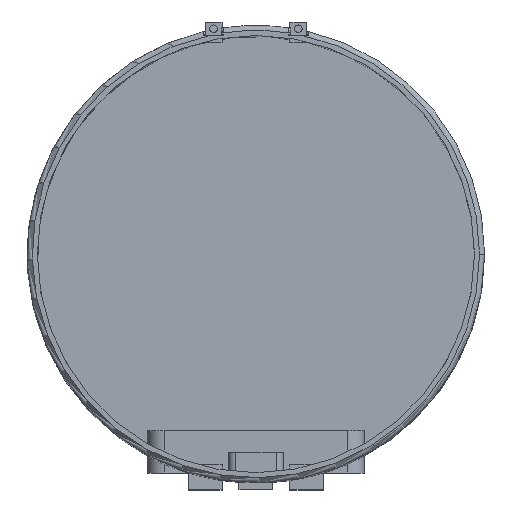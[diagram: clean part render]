
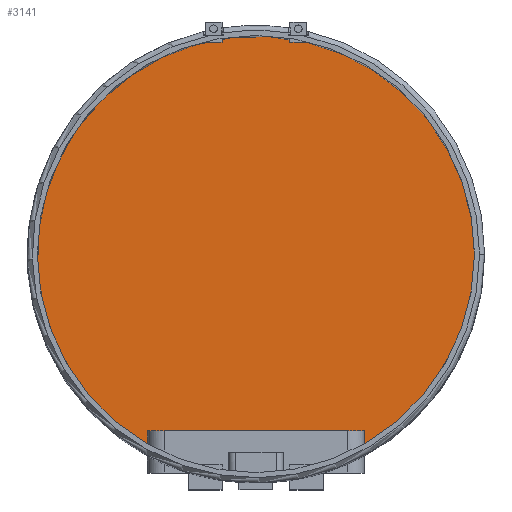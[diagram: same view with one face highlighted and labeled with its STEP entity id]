
A CAD part, top view. The second image highlights one B-rep face of the part: STEP entity #3141.
In plain terms, the highlighted planar face has unit normal (0, 0, 1).
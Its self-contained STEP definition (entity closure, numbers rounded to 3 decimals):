
#2206 = VERTEX_POINT('',#2207);
#2207 = CARTESIAN_POINT('',(63.165,-112.477,6.));
#2217 = EDGE_CURVE('',#2206,#2218,#2220,.T.);
#2218 = VERTEX_POINT('',#2219);
#2219 = CARTESIAN_POINT('',(129.,0.,6.));
#2220 = CIRCLE('',#2221,129.);
#2221 = AXIS2_PLACEMENT_3D('',#2222,#2223,#2224);
#2222 = CARTESIAN_POINT('',(0.,0.,6.));
#2223 = DIRECTION('',(0.,0.,1.));
#2224 = DIRECTION('',(1.,0.,-0.));
#2234 = EDGE_CURVE('',#2218,#2235,#2237,.T.);
#2235 = VERTEX_POINT('',#2236);
#2236 = CARTESIAN_POINT('',(-63.165,-112.477,6.));
#2237 = CIRCLE('',#2238,129.);
#2238 = AXIS2_PLACEMENT_3D('',#2239,#2240,#2241);
#2239 = CARTESIAN_POINT('',(0.,0.,6.));
#2240 = DIRECTION('',(0.,0.,1.));
#2241 = DIRECTION('',(1.,0.,-0.));
#2982 = EDGE_CURVE('',#2983,#2985,#2987,.T.);
#2983 = VERTEX_POINT('',#2984);
#2984 = CARTESIAN_POINT('',(63.165,-104.,6.));
#2985 = VERTEX_POINT('',#2986);
#2986 = CARTESIAN_POINT('',(-63.165,-104.,6.));
#2987 = LINE('',#2988,#2989);
#2988 = CARTESIAN_POINT('',(0.,-104.,6.));
#2989 = VECTOR('',#2990,1.);
#2990 = DIRECTION('',(-1.,0.,0.));
#3129 = EDGE_CURVE('',#2235,#2985,#3130,.T.);
#3130 = LINE('',#3131,#3132);
#3131 = CARTESIAN_POINT('',(-63.165,-129.,6.));
#3132 = VECTOR('',#3133,1.);
#3133 = DIRECTION('',(0.,1.,0.));
#3141 = ADVANCED_FACE('',(#3142),#3154,.T.);
#3142 = FACE_BOUND('',#3143,.T.);
#3143 = EDGE_LOOP('',(#3144,#3145,#3146,#3147,#3148));
#3144 = ORIENTED_EDGE('',*,*,#2217,.T.);
#3145 = ORIENTED_EDGE('',*,*,#2234,.T.);
#3146 = ORIENTED_EDGE('',*,*,#3129,.T.);
#3147 = ORIENTED_EDGE('',*,*,#2982,.F.);
#3148 = ORIENTED_EDGE('',*,*,#3149,.F.);
#3149 = EDGE_CURVE('',#2206,#2983,#3150,.T.);
#3150 = LINE('',#3151,#3152);
#3151 = CARTESIAN_POINT('',(63.165,-129.,6.));
#3152 = VECTOR('',#3153,1.);
#3153 = DIRECTION('',(0.,1.,0.));
#3154 = PLANE('',#3155);
#3155 = AXIS2_PLACEMENT_3D('',#3156,#3157,#3158);
#3156 = CARTESIAN_POINT('',(0.,0.,6.));
#3157 = DIRECTION('',(0.,0.,1.));
#3158 = DIRECTION('',(1.,0.,-0.));
